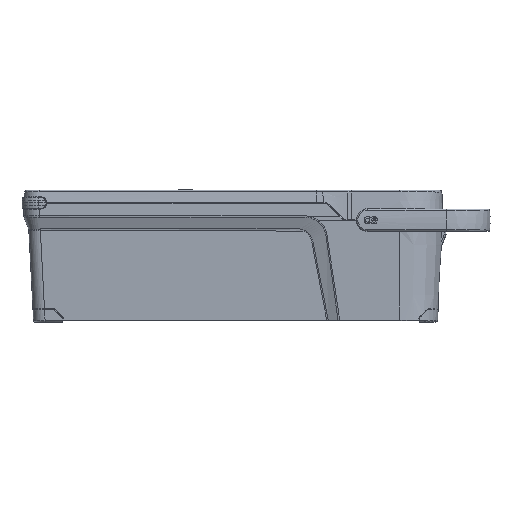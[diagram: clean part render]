
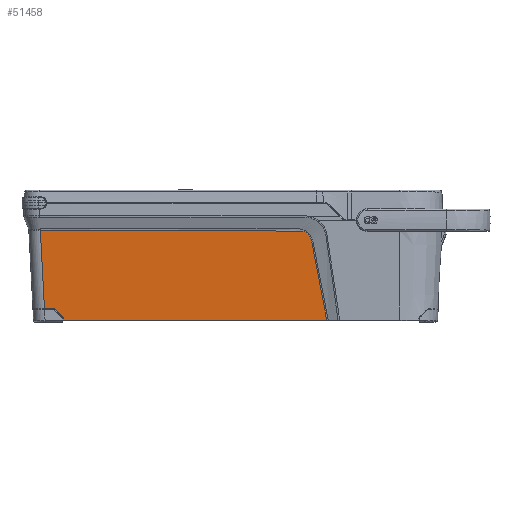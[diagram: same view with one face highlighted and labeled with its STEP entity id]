
A CAD part, top view. The second image highlights one B-rep face of the part: STEP entity #51458.
In plain terms, the highlighted planar face has unit normal (0, -0.052, 0.999).
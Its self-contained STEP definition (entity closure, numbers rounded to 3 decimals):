
#77 = CARTESIAN_POINT ( 'NONE',  ( 54.111, 55.07, 26.031 ) ) ;
#493 = CARTESIAN_POINT ( 'NONE',  ( 49.74, 61.183, 26.351 ) ) ;
#2421 = CARTESIAN_POINT ( 'NONE',  ( -133.433, 62.528, 26.422 ) ) ;
#3444 = VERTEX_POINT ( 'NONE', #56577 ) ;
#3630 = CARTESIAN_POINT ( 'NONE',  ( 64.536, 0.474, 23.169 ) ) ;
#4034 = CARTESIAN_POINT ( 'NONE',  ( -118.764, 68.69, 26.744 ) ) ;
#4268 = ORIENTED_EDGE ( 'NONE', *, *, #75891, .T. ) ;
#4643 = ORIENTED_EDGE ( 'NONE', *, *, #22805, .T. ) ;
#5139 = CARTESIAN_POINT ( 'NONE',  ( 48.892, 61.647, 26.375 ) ) ;
#5177 = ORIENTED_EDGE ( 'NONE', *, *, #66198, .T. ) ;
#5456 = CARTESIAN_POINT ( 'NONE',  ( 0., 0.474, 23.169 ) ) ;
#5549 = CARTESIAN_POINT ( 'NONE',  ( 57.793, 35.82, 25.022 ) ) ;
#5967 = CARTESIAN_POINT ( 'NONE',  ( 31.009, 62.528, 26.422 ) ) ;
#7006 = VERTEX_POINT ( 'NONE', #33859 ) ;
#7069 = CARTESIAN_POINT ( 'NONE',  ( -117.574, 0.474, 23.169 ) ) ;
#11410 = CARTESIAN_POINT ( 'NONE',  ( 44.177, 62.476, 26.419 ) ) ;
#11818 = CARTESIAN_POINT ( 'NONE',  ( 60.688, 20.673, 24.228 ) ) ;
#12239 = CARTESIAN_POINT ( 'NONE',  ( 54.167, 54.753, 26.014 ) ) ;
#12648 = CARTESIAN_POINT ( 'NONE',  ( 37.432, 62.528, 26.422 ) ) ;
#13071 = CARTESIAN_POINT ( 'NONE',  ( 52.768, 58.325, 26.201 ) ) ;
#13950 = ORIENTED_EDGE ( 'NONE', *, *, #46586, .T. ) ;
#14730 = CARTESIAN_POINT ( 'NONE',  ( -117.598, 1.894, 23.244 ) ) ;
#17136 = CARTESIAN_POINT ( 'NONE',  ( 0., 8.337, 23.582 ) ) ;
#17705 = CARTESIAN_POINT ( 'NONE',  ( 50.804, 60.448, 26.313 ) ) ;
#18130 = CARTESIAN_POINT ( 'NONE',  ( -40.934, 62.528, 26.422 ) ) ;
#18540 = CARTESIAN_POINT ( 'NONE',  ( 41.287, 62.522, 26.421 ) ) ;
#19140 = VERTEX_POINT ( 'NONE', #72416 ) ;
#19358 = CARTESIAN_POINT ( 'NONE',  ( 46.42, 62.361, 26.413 ) ) ;
#19467 = VERTEX_POINT ( 'NONE', #7069 ) ;
#20477 = B_SPLINE_CURVE_WITH_KNOTS ( 'NONE', 3,
 ( #37344, #82090, #11818, #5549, #31101, #56634, #32338, #24420, #12239, #77, #24834, #56208, #51570, #13071, #50327, #38184, #70412, #69577, #17705, #26064, #37762, #493, #5139, #43206, #31923, #62509, #19358, #75847, #68769, #30698, #36940, #63327, #11410, #81677, #18540, #49911, #12648, #5967, #75435, #18130, #50739, #44040 ),
 .UNSPECIFIED., .F., .F.,
 ( 4, 2, 2, 1, 2, 2, 2, 2, 2, 2, 2, 2, 2, 2, 2, 2, 1, 2, 2, 2, 1, 1, 4 ),
 ( 0., 0.031, 0.047, 0.055, 0.055, 0.056, 0.058, 0.06, 0.061, 0.062, 0.063, 0.064, 0.066, 0.067, 0.068, 0.069, 0.069, 0.07, 0.074, 0.078, 0.093, 0.124, 0.248 ),
 .UNSPECIFIED. ) ;
#22805 = EDGE_CURVE ( 'NONE', #7006, #19140, #49546, .T. ) ;
#24420 = CARTESIAN_POINT ( 'NONE',  ( 54.288, 54.122, 25.981 ) ) ;
#24834 = CARTESIAN_POINT ( 'NONE',  ( 53.881, 56.007, 26.08 ) ) ;
#25217 = DIRECTION ( 'NONE',  ( 0., -0.999, -0.052 ) ) ;
#26064 = CARTESIAN_POINT ( 'NONE',  ( 50.549, 60.644, 26.323 ) ) ;
#30698 = CARTESIAN_POINT ( 'NONE',  ( 45.46, 62.442, 26.417 ) ) ;
#31101 = CARTESIAN_POINT ( 'NONE',  ( 56.827, 40.869, 25.286 ) ) ;
#31573 =( BOUNDED_CURVE ( )  B_SPLINE_CURVE ( 3, ( #46538, #78316, #14730, #40264 ),
 .UNSPECIFIED., .F., .T. ) 
 B_SPLINE_CURVE_WITH_KNOTS ( ( 4, 4 ),
 ( 3.927, 4.695 ),
 .UNSPECIFIED. ) 
 CURVE ( )  GEOMETRIC_REPRESENTATION_ITEM ( )  RATIONAL_B_SPLINE_CURVE ( ( 1., 0.951, 0.951, 1. ) ) 
 REPRESENTATION_ITEM ( '' )  );
#31923 = CARTESIAN_POINT ( 'NONE',  ( 47.374, 62.169, 26.403 ) ) ;
#32035 = CARTESIAN_POINT ( 'NONE',  ( -133.498, 63.78, 26.487 ) ) ;
#32338 = CARTESIAN_POINT ( 'NONE',  ( 54.833, 51.282, 25.832 ) ) ;
#32701 = CARTESIAN_POINT ( 'NONE',  ( -130.593, 8.337, 23.582 ) ) ;
#33859 = CARTESIAN_POINT ( 'NONE',  ( -123.096, 7.649, 23.545 ) ) ;
#34995 = VERTEX_POINT ( 'NONE', #32701 ) ;
#36427 = DIRECTION ( 'NONE',  ( 1., 0., 0. ) ) ;
#36660 = DIRECTION ( 'NONE',  ( 0.017, -0.998, -0.052 ) ) ;
#36940 = CARTESIAN_POINT ( 'NONE',  ( 45.139, 62.451, 26.418 ) ) ;
#37344 = CARTESIAN_POINT ( 'NONE',  ( 64.536, 0.474, 23.169 ) ) ;
#37762 = CARTESIAN_POINT ( 'NONE',  ( 50.018, 61.011, 26.342 ) ) ;
#38184 = CARTESIAN_POINT ( 'NONE',  ( 51.965, 59.342, 26.255 ) ) ;
#38535 = VECTOR ( 'NONE', #57567, 1000. ) ;
#38579 = DIRECTION ( 'NONE',  ( 0., -0.052, 0.999 ) ) ;
#38992 = FACE_OUTER_BOUND ( 'NONE', #41893, .T. ) ;
#39668 = EDGE_CURVE ( 'NONE', #34995, #3444, #48927, .T. ) ;
#40264 = CARTESIAN_POINT ( 'NONE',  ( -117.59, 1.408, 23.218 ) ) ;
#41177 = CARTESIAN_POINT ( 'NONE',  ( -123.096, 7.649, 23.545 ) ) ;
#41893 = EDGE_LOOP ( 'NONE', ( #54330, #61873, #13950, #4643, #4268, #60271, #5177, #62296 ) ) ;
#42122 = LINE ( 'NONE', #4034, #44518 ) ;
#43206 = CARTESIAN_POINT ( 'NONE',  ( 48.3, 61.894, 26.388 ) ) ;
#44040 = CARTESIAN_POINT ( 'NONE',  ( -133.433, 62.528, 26.422 ) ) ;
#44518 = VECTOR ( 'NONE', #36660, 1000. ) ;
#45284 = EDGE_CURVE ( 'NONE', #53195, #55237, #20477, .T. ) ;
#46538 = CARTESIAN_POINT ( 'NONE',  ( -118.131, 2.684, 23.285 ) ) ;
#46586 = EDGE_CURVE ( 'NONE', #3444, #7006, #71033, .T. ) ;
#47641 = EDGE_CURVE ( 'NONE', #62970, #19467, #42122, .T. ) ;
#48927 = LINE ( 'NONE', #17136, #76179 ) ;
#49546 = LINE ( 'NONE', #75488, #62789 ) ;
#49911 = CARTESIAN_POINT ( 'NONE',  ( 38.717, 62.531, 26.422 ) ) ;
#50327 = CARTESIAN_POINT ( 'NONE',  ( 52.176, 59.095, 26.242 ) ) ;
#50442 = LINE ( 'NONE', #32035, #38535 ) ;
#50739 = CARTESIAN_POINT ( 'NONE',  ( -92.322, 62.528, 26.422 ) ) ;
#51458 = ADVANCED_FACE ( 'NONE', ( #38992 ), #64947, .T. ) ;
#51570 = CARTESIAN_POINT ( 'NONE',  ( 53.103, 57.779, 26.173 ) ) ;
#53195 = VERTEX_POINT ( 'NONE', #3630 ) ;
#54330 = ORIENTED_EDGE ( 'NONE', *, *, #65918, .T. ) ;
#55237 = VERTEX_POINT ( 'NONE', #2421 ) ;
#55924 = VECTOR ( 'NONE', #36427, 1000. ) ;
#56208 = CARTESIAN_POINT ( 'NONE',  ( 53.659, 56.623, 26.112 ) ) ;
#56577 = CARTESIAN_POINT ( 'NONE',  ( -124.758, 8.337, 23.582 ) ) ;
#56634 = CARTESIAN_POINT ( 'NONE',  ( 55.377, 48.443, 25.683 ) ) ;
#57567 = DIRECTION ( 'NONE',  ( 0.052, -0.997, -0.052 ) ) ;
#59204 = CARTESIAN_POINT ( 'NONE',  ( -123.543, 8.095, 23.569 ) ) ;
#60034 = CARTESIAN_POINT ( 'NONE',  ( -124.758, 8.337, 23.582 ) ) ;
#60271 = ORIENTED_EDGE ( 'NONE', *, *, #47641, .T. ) ;
#61873 = ORIENTED_EDGE ( 'NONE', *, *, #39668, .T. ) ;
#61920 = DIRECTION ( 'NONE',  ( 1., 0., 0. ) ) ;
#62296 = ORIENTED_EDGE ( 'NONE', *, *, #45284, .T. ) ;
#62509 = CARTESIAN_POINT ( 'NONE',  ( 47.056, 62.245, 26.407 ) ) ;
#62789 = VECTOR ( 'NONE', #73850, 1000. ) ;
#62819 = LINE ( 'NONE', #5456, #55924 ) ;
#62970 = VERTEX_POINT ( 'NONE', #62979 ) ;
#62979 = CARTESIAN_POINT ( 'NONE',  ( -117.59, 1.408, 23.218 ) ) ;
#63327 = CARTESIAN_POINT ( 'NONE',  ( 44.658, 62.464, 26.418 ) ) ;
#64947 = PLANE ( 'NONE',  #79544 ) ;
#65893 = CARTESIAN_POINT ( 'NONE',  ( -124.126, 8.337, 23.582 ) ) ;
#65918 = EDGE_CURVE ( 'NONE', #55237, #34995, #50442, .T. ) ;
#66198 = EDGE_CURVE ( 'NONE', #19467, #53195, #62819, .T. ) ;
#68769 = CARTESIAN_POINT ( 'NONE',  ( 45.621, 62.436, 26.417 ) ) ;
#69577 = CARTESIAN_POINT ( 'NONE',  ( 51.29, 60.031, 26.291 ) ) ;
#70383 = CARTESIAN_POINT ( 'NONE',  ( 0., 70.757, 26.853 ) ) ;
#70412 = CARTESIAN_POINT ( 'NONE',  ( 51.523, 59.81, 26.279 ) ) ;
#71033 =( BOUNDED_CURVE ( )  B_SPLINE_CURVE ( 3, ( #60034, #65893, #59204, #41177 ),
 .UNSPECIFIED., .F., .T. ) 
 B_SPLINE_CURVE_WITH_KNOTS ( ( 4, 4 ),
 ( 3.142, 3.927 ),
 .UNSPECIFIED. ) 
 CURVE ( )  GEOMETRIC_REPRESENTATION_ITEM ( )  RATIONAL_B_SPLINE_CURVE ( ( 1., 0.949, 0.949, 1. ) ) 
 REPRESENTATION_ITEM ( '' )  );
#72416 = CARTESIAN_POINT ( 'NONE',  ( -118.131, 2.684, 23.285 ) ) ;
#73850 = DIRECTION ( 'NONE',  ( 0.707, -0.707, -0.037 ) ) ;
#75435 = CARTESIAN_POINT ( 'NONE',  ( 15.593, 62.528, 26.422 ) ) ;
#75488 = CARTESIAN_POINT ( 'NONE',  ( -93.23, -22.218, 21.98 ) ) ;
#75847 = CARTESIAN_POINT ( 'NONE',  ( 46.101, 62.402, 26.415 ) ) ;
#75891 = EDGE_CURVE ( 'NONE', #19140, #62970, #31573, .T. ) ;
#76179 = VECTOR ( 'NONE', #61920, 1000. ) ;
#78316 = CARTESIAN_POINT ( 'NONE',  ( -117.788, 2.341, 23.267 ) ) ;
#79544 = AXIS2_PLACEMENT_3D ( 'NONE', #70383, #38579, #25217 ) ;
#81677 = CARTESIAN_POINT ( 'NONE',  ( 42.571, 62.509, 26.421 ) ) ;
#82090 = CARTESIAN_POINT ( 'NONE',  ( 62.615, 10.574, 23.699 ) ) ;
